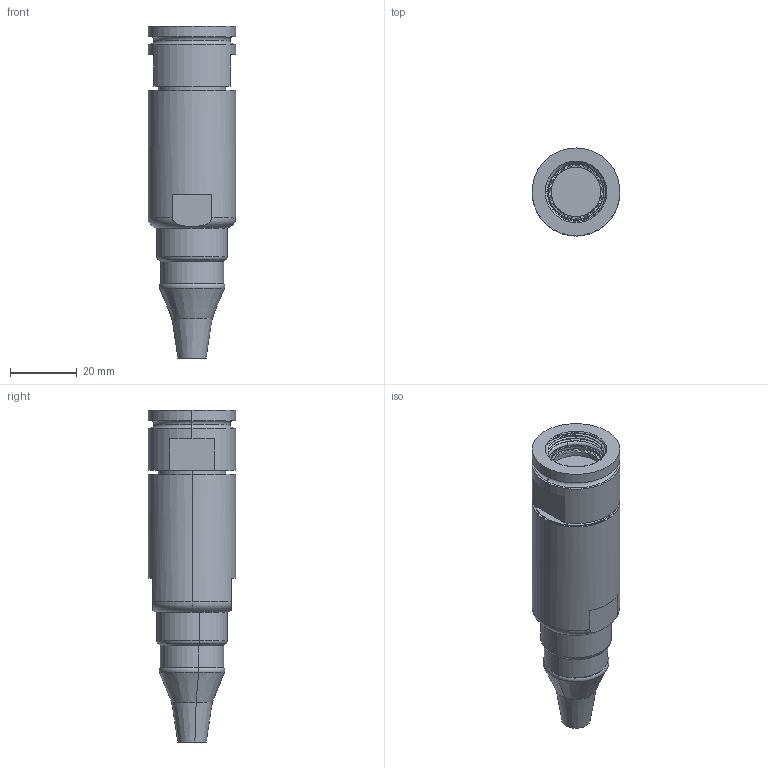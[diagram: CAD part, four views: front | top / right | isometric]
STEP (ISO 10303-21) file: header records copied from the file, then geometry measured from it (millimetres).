
FILE_DESCRIPTION (( 'STEP AP214' ), '1' );
FILE_NAME ('Q38SHELL-STX-13-XXXX-HX.STEP', '2025-09-09T16:06:22', ( '' ), ( '' ), 'SwSTEP 2.0', 'SolidWorks 2024', '' );
FILE_SCHEMA (( 'AUTOMOTIVE_DESIGN' ));
Length unit declared in the file: millimetre
Products named in the file (1): Q38SHELL-STX-13-XXXX-HX
Bounding box: 26.42 x 26.42 x 99.78 mm (x, y, z)
Volume: 36814.2 mm3; surface area: 10959.3 mm2
Topology: 2 solids, 2 shells, 184 faces, 466 edges, 300 vertices
Faces by surface type: plane 106, cylinder 39, cone 20, torus 16, bspline 3
Entity records: 6500 total; most frequent: CARTESIAN_POINT 2144, DIRECTION 936, ORIENTED_EDGE 932, EDGE_CURVE 466, AXIS2_PLACEMENT_3D 392, VERTEX_POINT 300, CIRCLE 210, EDGE_LOOP 200
